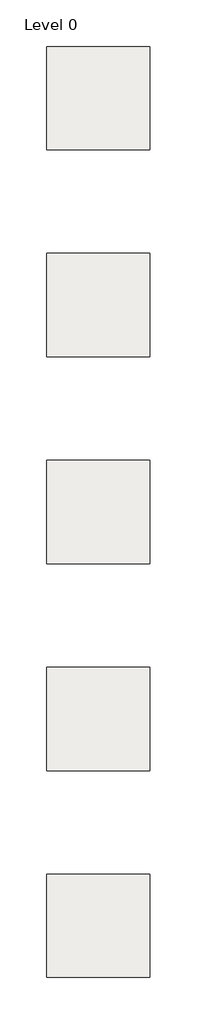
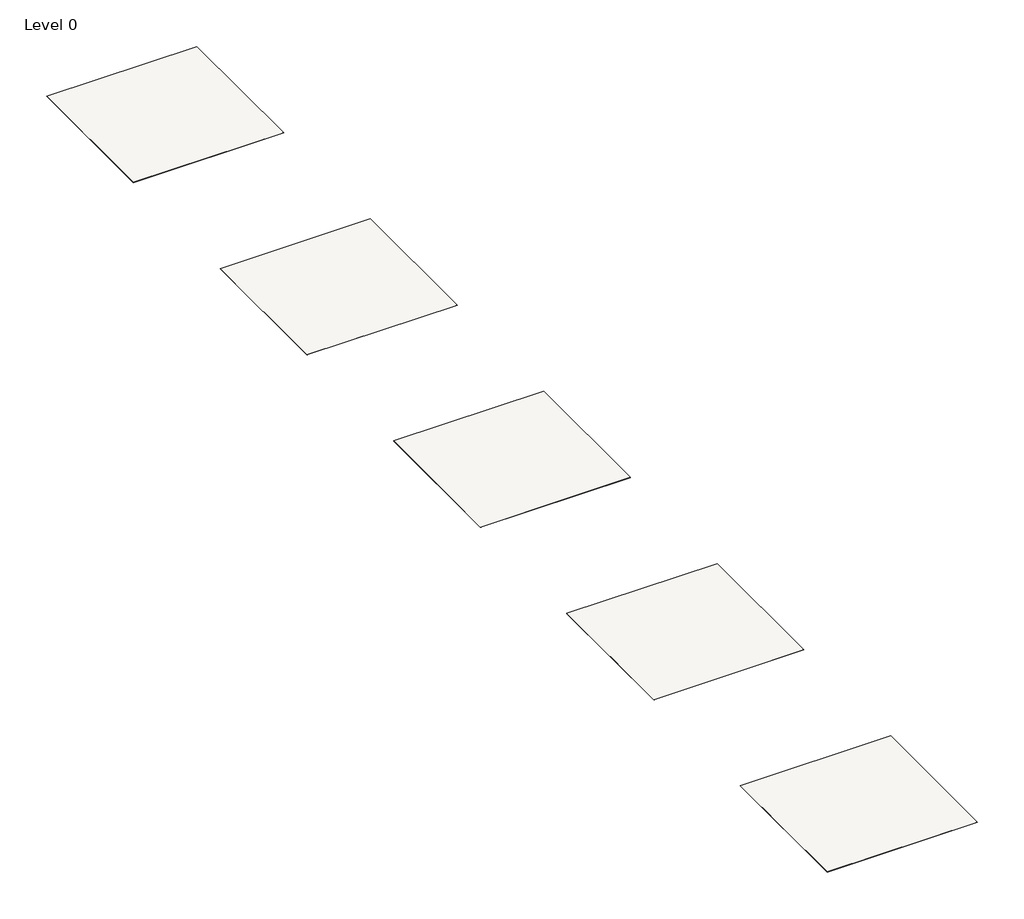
# One storey: 5 coverings.
"""IFC4 building model written with IfcOpenShell, lengths in millimetres."""

from ifc_helpers import new_model, si_unit, origin, origin_with_axes, place, context, project, spatial, polyline, outline, extrude, element, save

model = new_model("IFC4")

# Units and contexts
model_context = context("Model", 3, world=origin())
ifc_project = project(units=[si_unit("LENGTHUNIT", "METRE", prefix="MILLI")], contexts=[model_context])

# Site, building, storey
site = spatial("IfcSite", under=ifc_project)
building = spatial("IfcBuilding", under=site)
storey = spatial("IfcBuildingStorey", under=building, Name="Level 0", Elevation=0.0)

# Coverings
placement = place(None, origin())
element("IfcCovering", 1, ObjectType="NBS_Zentia_ModularSuspendedCeilingSystems_DecoMeshRB35-NexusLayouts_NexusARRAY", at=placement, inside=storey, context=model_context, shape_type="SweptSolid", body=[
    extrude(outline(polyline([(-976.0, -4024.0), (-976.0, -1524.0), (1524.0, -1524.0), (1524.0, -4024.0), (-976.0, -4024.0)])), origin_with_axes(), (0.0, 0.0, 1.0), 3.0),
])
element("IfcCovering", 2, ObjectType="NBS_Zentia_ModularSuspendedCeilingSystems_DecoMeshRB35-NexusLayouts_NexusBERG", at=placement, inside=storey, context=model_context, shape_type="SweptSolid", body=[
    extrude(outline(polyline([(-976.0, -9024.0), (-976.0, -6524.0), (1524.0, -6524.0), (1524.0, -9024.0), (-976.0, -9024.0)])), origin_with_axes(), (0.0, 0.0, 1.0), 3.0),
])
element("IfcCovering", 3, ObjectType="NBS_Zentia_ModularSuspendedCeilingSystems_DecoMeshRB35-NexusLayouts_NexusEXCLAIM", at=placement, inside=storey, context=model_context, shape_type="SweptSolid", body=[
    extrude(outline(polyline([(-976.0, -14024.0), (-976.0, -11524.0), (1524.0, -11524.0), (1524.0, -14024.0), (-976.0, -14024.0)])), origin_with_axes(), (0.0, 0.0, 1.0), 3.0),
])
element("IfcCovering", 4, ObjectType="NBS_Zentia_ModularSuspendedCeilingSystems_DecoMeshRB35-NexusLayouts_NexusPIXAL", at=placement, inside=storey, context=model_context, shape_type="SweptSolid", body=[
    extrude(outline(polyline([(-976.0, -19024.0), (-976.0, -16524.0), (1524.0, -16524.0), (1524.0, -19024.0), (-976.0, -19024.0)])), origin_with_axes(), (0.0, 0.0, 1.0), 3.0),
])
element("IfcCovering", 5, ObjectType="NBS_Zentia_ModularSuspendedCeilingSystems_DecoMeshRB35-NexusLayouts_NexusSTEP", at=placement, inside=storey, context=model_context, shape_type="SweptSolid", body=[
    extrude(outline(polyline([(-976.0, -24024.0), (-976.0, -21524.0), (1524.0, -21524.0), (1524.0, -24024.0), (-976.0, -24024.0)])), origin_with_axes(), (0.0, 0.0, 1.0), 3.0),
])

save(model, "model.ifc")
